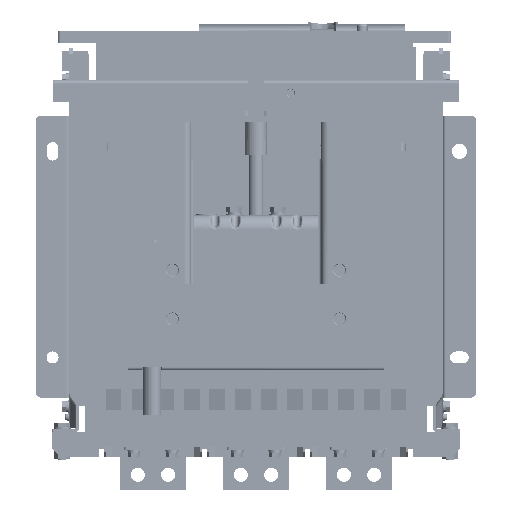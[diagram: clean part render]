
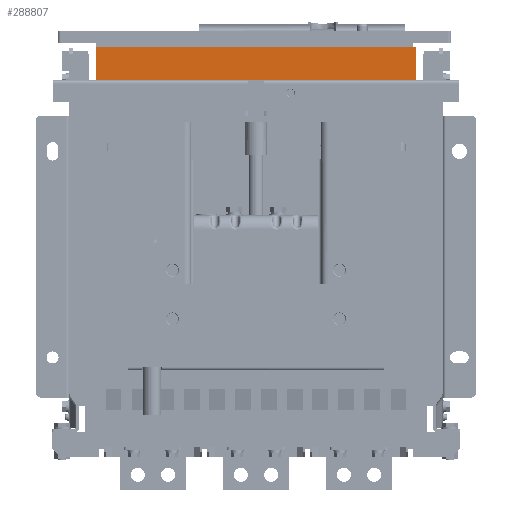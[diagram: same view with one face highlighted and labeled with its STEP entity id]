
A CAD part, front view. The second image highlights one B-rep face of the part: STEP entity #288807.
In plain terms, the highlighted planar face has unit normal (0, -1, 0) as drawn and (1, 0, 0) by its records, which use the part's own axes.
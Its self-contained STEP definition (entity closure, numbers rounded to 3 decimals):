
#20514 = DIRECTION ( 'NONE',  ( 0., -1., 0. ) ) ;
#23054 = CARTESIAN_POINT ( 'NONE',  ( 401.258, 11.436, -9.5 ) ) ;
#30550 = CARTESIAN_POINT ( 'NONE',  ( 401.258, 11.436, -40.5 ) ) ;
#31373 = ORIENTED_EDGE ( 'NONE', *, *, #54554, .F. ) ;
#45539 = CARTESIAN_POINT ( 'NONE',  ( 401.258, -283.564, -40.5 ) ) ;
#48966 = LINE ( 'NONE', #52721, #303772 ) ;
#52721 = CARTESIAN_POINT ( 'NONE',  ( 401.258, 11.436, -9.5 ) ) ;
#54554 = EDGE_CURVE ( 'NONE', #147804, #94480, #368897, .T. ) ;
#62013 = VECTOR ( 'NONE', #174228, 1000. ) ;
#81545 = ORIENTED_EDGE ( 'NONE', *, *, #329428, .F. ) ;
#86037 = DIRECTION ( 'NONE',  ( 0., 0., -1. ) ) ;
#88780 = CARTESIAN_POINT ( 'NONE',  ( 401.258, 11.436, -40.5 ) ) ;
#94480 = VERTEX_POINT ( 'NONE', #30550 ) ;
#97407 = AXIS2_PLACEMENT_3D ( 'NONE', #135282, #251057, #338499 ) ;
#135282 = CARTESIAN_POINT ( 'NONE',  ( 401.258, -283.564, -40.5 ) ) ;
#139090 = CARTESIAN_POINT ( 'NONE',  ( 401.258, 11.436, -9.5 ) ) ;
#147804 = VERTEX_POINT ( 'NONE', #23054 ) ;
#149498 = LINE ( 'NONE', #88780, #62013 ) ;
#150506 = CARTESIAN_POINT ( 'NONE',  ( 401.258, -283.564, -9.5 ) ) ;
#158484 = EDGE_LOOP ( 'NONE', ( #340748, #81545, #31373, #331565 ) ) ;
#171479 = LINE ( 'NONE', #150506, #190960 ) ;
#174228 = DIRECTION ( 'NONE',  ( 0., -1., 0. ) ) ;
#178486 = EDGE_CURVE ( 'NONE', #147804, #313006, #48966, .T. ) ;
#190960 = VECTOR ( 'NONE', #86037, 1000. ) ;
#192250 = PLANE ( 'NONE',  #97407 ) ;
#245828 = VECTOR ( 'NONE', #367033, 1000. ) ;
#251057 = DIRECTION ( 'NONE',  ( 1., 0., 0. ) ) ;
#260832 = CARTESIAN_POINT ( 'NONE',  ( 401.258, -283.564, -9.5 ) ) ;
#261051 = EDGE_CURVE ( 'NONE', #313006, #347082, #171479, .T. ) ;
#288807 = ADVANCED_FACE ( 'NONE', ( #336641 ), #192250, .T. ) ;
#303772 = VECTOR ( 'NONE', #20514, 1000. ) ;
#313006 = VERTEX_POINT ( 'NONE', #260832 ) ;
#329428 = EDGE_CURVE ( 'NONE', #94480, #347082, #149498, .T. ) ;
#331565 = ORIENTED_EDGE ( 'NONE', *, *, #178486, .T. ) ;
#336641 = FACE_OUTER_BOUND ( 'NONE', #158484, .T. ) ;
#338499 = DIRECTION ( 'NONE',  ( 0., 1., 0. ) ) ;
#340748 = ORIENTED_EDGE ( 'NONE', *, *, #261051, .T. ) ;
#347082 = VERTEX_POINT ( 'NONE', #45539 ) ;
#367033 = DIRECTION ( 'NONE',  ( 0., 0., -1. ) ) ;
#368897 = LINE ( 'NONE', #139090, #245828 ) ;
